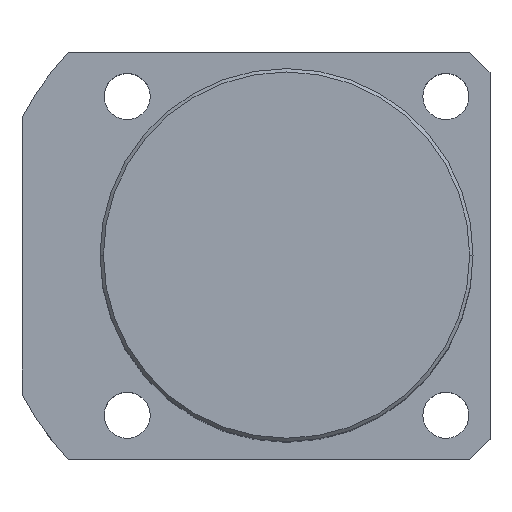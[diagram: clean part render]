
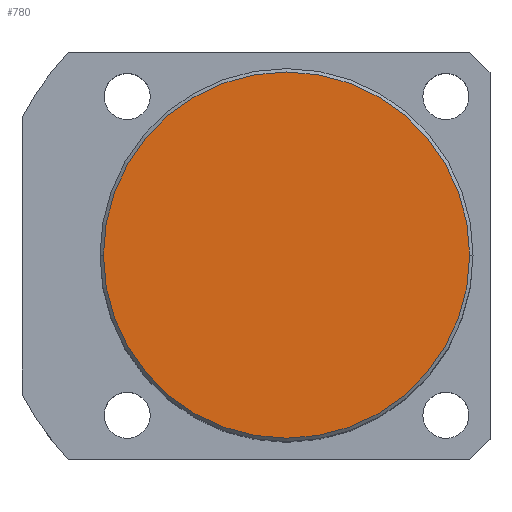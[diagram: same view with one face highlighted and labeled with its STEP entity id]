
A CAD part, top view. The second image highlights one B-rep face of the part: STEP entity #780.
In plain terms, the highlighted planar face has unit normal (0, 0, 1).
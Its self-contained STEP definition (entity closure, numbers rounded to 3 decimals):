
#26 = PLANE ( 'NONE',  #1508 ) ;
#44 = DIRECTION ( 'NONE',  ( 1., 0., 0. ) ) ;
#174 = DIRECTION ( 'NONE',  ( 0., 0., 1. ) ) ;
#339 = DIRECTION ( 'NONE',  ( 0., 0., 1. ) ) ;
#506 = ORIENTED_EDGE ( 'NONE', *, *, #992, .T. ) ;
#625 = VERTEX_POINT ( 'NONE', #1512 ) ;
#667 = CARTESIAN_POINT ( 'NONE',  ( 0., 0., 75. ) ) ;
#780 = ADVANCED_FACE ( 'NONE', ( #1264 ), #26, .T. ) ;
#788 = DIRECTION ( 'NONE',  ( 1., 0., 0. ) ) ;
#806 = EDGE_CURVE ( 'NONE', #811, #625, #1722, .T. ) ;
#811 = VERTEX_POINT ( 'NONE', #1250 ) ;
#876 = CIRCLE ( 'NONE', #936, 27. ) ;
#934 = EDGE_LOOP ( 'NONE', ( #506, #1730 ) ) ;
#936 = AXIS2_PLACEMENT_3D ( 'NONE', #667, #1262, #44 ) ;
#992 = EDGE_CURVE ( 'NONE', #625, #811, #876, .T. ) ;
#1103 = CARTESIAN_POINT ( 'NONE',  ( 0., 0., 75. ) ) ;
#1113 = CARTESIAN_POINT ( 'NONE',  ( 0., 0., 75. ) ) ;
#1250 = CARTESIAN_POINT ( 'NONE',  ( 27., 0., 75. ) ) ;
#1262 = DIRECTION ( 'NONE',  ( 0., 0., 1. ) ) ;
#1264 = FACE_OUTER_BOUND ( 'NONE', #934, .T. ) ;
#1267 = DIRECTION ( 'NONE',  ( 1., 0., 0. ) ) ;
#1508 = AXIS2_PLACEMENT_3D ( 'NONE', #1113, #339, #1267 ) ;
#1512 = CARTESIAN_POINT ( 'NONE',  ( -27., 0., 75. ) ) ;
#1645 = AXIS2_PLACEMENT_3D ( 'NONE', #1103, #174, #788 ) ;
#1722 = CIRCLE ( 'NONE', #1645, 27. ) ;
#1730 = ORIENTED_EDGE ( 'NONE', *, *, #806, .T. ) ;
